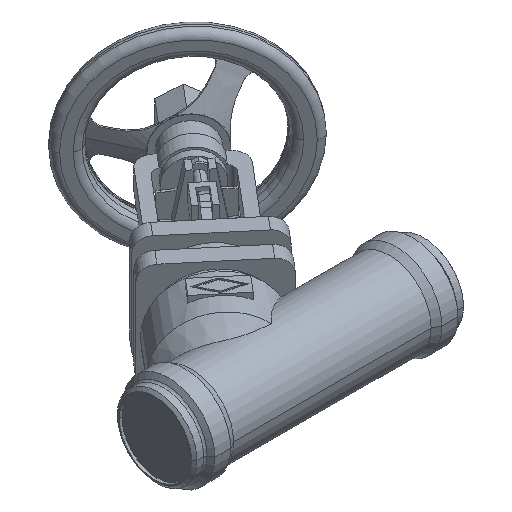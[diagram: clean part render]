
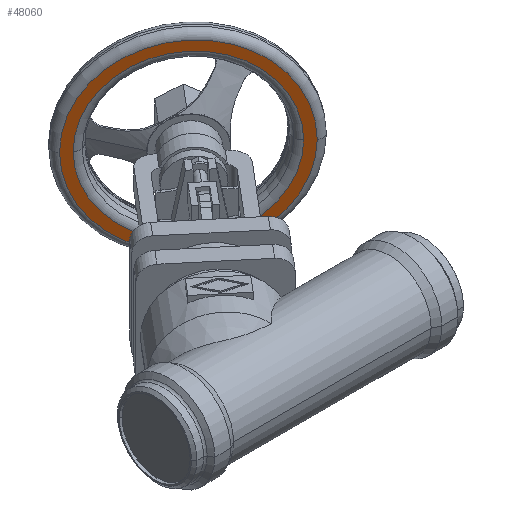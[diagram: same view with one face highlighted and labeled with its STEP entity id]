
A CAD part, isometric view. The second image highlights one B-rep face of the part: STEP entity #48060.
In plain terms, the highlighted planar face has unit normal (-0.643, -0.766, 0).
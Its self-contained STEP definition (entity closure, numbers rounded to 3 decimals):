
#47400=CARTESIAN_POINT('',(389.341,203.702,0.));
#47410=VERTEX_POINT('',#47400);
#47510=CARTESIAN_POINT('',(229.238,338.045,0.));
#47520=VERTEX_POINT('',#47510);
#47550=CARTESIAN_POINT('',(309.29,270.873,0.));
#47560=DIRECTION('',(0.643,0.766,0.));
#47570=DIRECTION('',(-0.766,0.643,
0.));
#47580=AXIS2_PLACEMENT_3D('',#47550,#47560,#47570);
#47590=CIRCLE('',#47580,104.5);
#47600=CARTESIAN_POINT('',(309.29,270.873,-104.5));
#47610=VERTEX_POINT('',#47600);
#47620=EDGE_CURVE('',#47610,#47520,#47590,.T.);
#47640=EDGE_CURVE('',#47410,#47610,#47590,.T.);
#47760=CARTESIAN_POINT('',(233.451,334.509,
0.));
#47770=DIRECTION('',(-0.643,-0.766,
0.));
#47780=DIRECTION('',(0.766,-0.643,
0.));
#47790=AXIS2_PLACEMENT_3D('',#47760,#47770,#47780);
#47800=PLANE('',#47790);
#47810=ORIENTED_EDGE('',*,*,#47620,.F.);
#47820=EDGE_CURVE('',#47520,#47410,#47590,.T.);
#47830=ORIENTED_EDGE('',*,*,#47820,.F.);
#47840=ORIENTED_EDGE('',*,*,#47640,.F.);
#47850=EDGE_LOOP('',(#47840,#47830,#47810));
#47860=FACE_OUTER_BOUND('',#47850,.T.);
#47870=CARTESIAN_POINT('',(309.29,270.873,0.));
#47880=DIRECTION('',(0.643,0.766,0.));
#47890=DIRECTION('',(-0.766,0.643,
0.));
#47900=AXIS2_PLACEMENT_3D('',#47870,#47880,#47890);
#47910=CIRCLE('',#47900,93.5);
#47920=CARTESIAN_POINT('',(380.915,210.773,0.));
#47930=VERTEX_POINT('',#47920);
#47940=CARTESIAN_POINT('',(237.665,330.974,0.));
#47950=VERTEX_POINT('',#47940);
#47960=EDGE_CURVE('',#47930,#47950,#47910,.T.);
#47970=ORIENTED_EDGE('',*,*,#47960,.T.);
#47980=CARTESIAN_POINT('',(309.29,270.873,
93.5));
#47990=VERTEX_POINT('',#47980);
#48000=EDGE_CURVE('',#47990,#47930,#47910,.T.);
#48010=ORIENTED_EDGE('',*,*,#48000,.T.);
#48020=EDGE_CURVE('',#47950,#47990,#47910,.T.);
#48030=ORIENTED_EDGE('',*,*,#48020,.T.);
#48040=EDGE_LOOP('',(#48030,#48010,#47970));
#48050=FACE_BOUND('',#48040,.T.);
#48060=ADVANCED_FACE('',(#47860,#48050),#47800,.T.);
